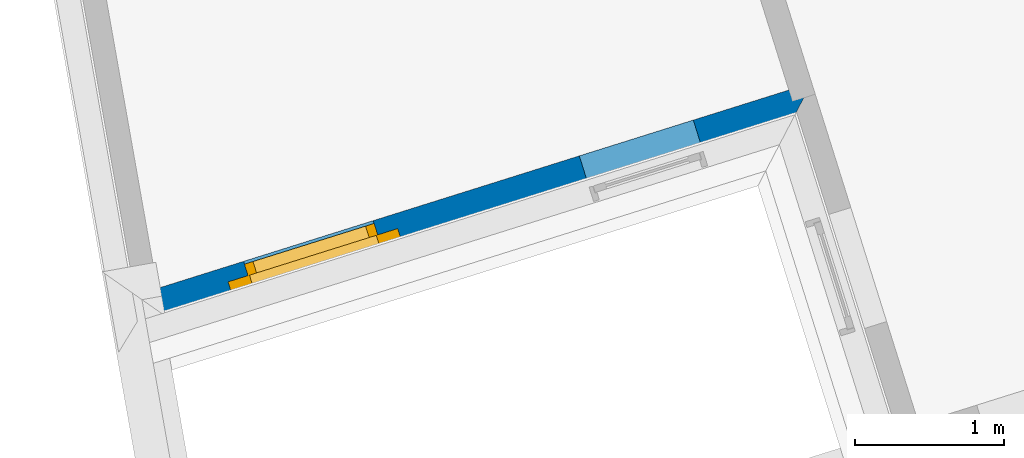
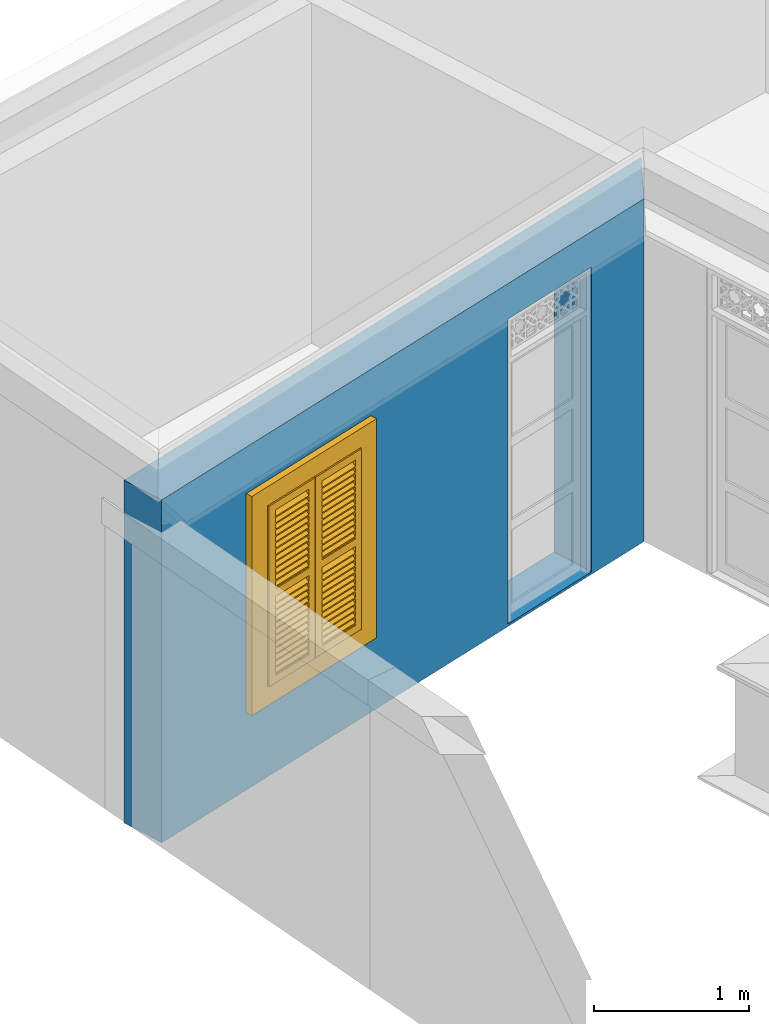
# One storey, part 6 of 13: 1 wall, 1 window, 2 openings.
"""IFC4 building model written with IfcOpenShell, lengths in metres."""

from ifc_helpers import new_model, si_unit, frame, origin, origin_with_axes, place, context, subcontext, project, spatial, polyline, outline, extrude, faceted_brep, source, transform, mapped, material, layer, layer_set, layer_usage, type_object, type_shapes, element, fill, save


model = new_model("IFC4")

# Units and contexts
model_context = context("Model", 3, world=origin_with_axes())
body_context = subcontext(model_context, "Body", "Model", "MODEL_VIEW")
ifc_project = project(units=[si_unit("PLANEANGLEUNIT", "RADIAN"), si_unit("MASSUNIT", "GRAM", prefix="KILO"), si_unit("FORCEUNIT", "NEWTON", prefix="KILO"), si_unit("LENGTHUNIT", "METRE"), si_unit("AREAUNIT", "SQUARE_METRE"), si_unit("VOLUMEUNIT", "CUBIC_METRE")], contexts=[model_context, model_context])

# Site, building, storey
site_placement = place(None, origin_with_axes())
site = spatial("IfcSite", under=ifc_project, at=site_placement, Name="Site plot-0", CompositionType="ELEMENT")
building_placement = place(None, origin_with_axes())
building = spatial("IfcBuilding", under=site, at=building_placement, Name="Building plot-0", CompositionType="ELEMENT")
storey_placement = place(None, frame((0.0, 0.0, 3.6), z_axis=(0.0, 0.0, 1.0), x_axis=(1.0, 0.0, 0.0)))
storey = spatial("IfcBuildingStorey", under=building, at=storey_placement, Name="plot-0 1", CompositionType="ELEMENT", Elevation=3.6)

# Wall, openings, window
ifc_material = material(Name="Masonry")
ifc_layer = layer(ifc_material, 0.33, ventilated=False)
ifc_layer_set = layer_set([ifc_layer], Name="exterior_0.08_0.25")
ifc_layer_usage = layer_usage(ifc_layer_set, "AXIS2", "POSITIVE", -0.25)
wall_type = type_object("IfcWallType", Name="exterior_0.08_0.25", PredefinedType="SOLIDWALL", material=ifc_layer_set)
wall_placement = place(storey_placement, frame((-0.280308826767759, 10.1948542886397, 0.0), z_axis=(0.0, 0.0, 1.0), x_axis=(0.954025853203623, 0.299724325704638, 0.0)))
wall = element("IfcWall", 1, at=wall_placement, inside=storey, type_object=wall_type, material=ifc_layer_usage, Name="exterior", context=body_context, shape_type="SweptSolid", body=[
    extrude(outline(polyline([(-0.25, 0.0800000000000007), (-0.25, -0.25), (4.35151300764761, -0.250000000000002), (4.68151300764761, 0.0799999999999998), (-0.25, 0.0800000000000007)])), origin_with_axes(), (0.0, 0.0, 1.0), 2.7),
])
opening_1_placement = place(wall_placement, frame((0.695378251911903, 0.0, 0.75)))
opening_1 = element("IfcOpeningElement", 2, at=opening_1_placement, cuts=wall, Name="My Opening", ObjectType="Opening", context=body_context, shape_type="SweptSolid", body=[
    extrude(outline(polyline([(0.0, -0.27), (0.91, -0.270000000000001), (0.91, 1.1), (3.33066907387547e-16, 1.1), (0.0, -0.27)])), origin_with_axes(), (0.0, 0.0, 1.0), 1.445),
])
opening_2_placement = place(wall_placement, frame((3.05113475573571, 0.0, 0.02)))
element("IfcOpeningElement", 3, at=opening_2_placement, cuts=wall, Name="My Opening", ObjectType="Opening", context=body_context, shape_type="SweptSolid", body=[
    extrude(outline(polyline([(0.0, -0.27), (0.800000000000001, -0.27), (0.8, 1.1), (8.88178419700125e-16, 1.1), (0.0, -0.27)])), origin_with_axes(), (0.0, 0.0, 1.0), 2.4),
])
window_type = type_object("IfcWindowType", Name="shuttered_shorter", PartitioningType="DOUBLE_PANEL_HORIZONTAL", PredefinedType="NOTDEFINED")
shared_shape = source(origin(), body_context, "Body", "Brep", [
    faceted_brep([(0.393, 0.0, 0.622), (0.074, 0.0, 0.622), (0.074, 0.0, 0.632), (0.393, 0.0, 0.632), (0.074, -0.04, 0.592), (0.393, -0.04, 0.592), (0.393, -0.04, 0.582), (0.074, -0.04, 0.582), (0.517, 0.0, 0.682), (0.836, 0.0, 0.682), (0.836, 0.0, 0.672), (0.517, 0.0, 0.672), (0.517, -0.04, 0.642), (0.836, -0.04, 0.642), (0.836, -0.04, 0.632), (0.517, -0.04, 0.632), (0.517, 0.0, 0.632), (0.836, 0.0, 0.632), (0.836, 0.0, 0.622), (0.517, 0.0, 0.622), (0.517, -0.04, 0.592), (0.836, -0.04, 0.592), (0.836, -0.04, 0.582), (0.517, -0.04, 0.582), (0.517, 0.0, 0.232), (0.836, 0.0, 0.232), (0.836, 0.0, 0.222), (0.517, 0.0, 0.222), (0.517, -0.04, 0.192), (0.836, -0.04, 0.192), (0.836, -0.04, 0.182), (0.517, -0.04, 0.182), (0.517, 0.0, 0.532), (0.836, 0.0, 0.532), (0.836, 0.0, 0.522), (0.517, 0.0, 0.522), (0.517, -0.04, 0.492), (0.836, -0.04, 0.492), (0.836, -0.04, 0.482), (0.517, -0.04, 0.482), (0.517, 0.0, 0.482), (0.836, 0.0, 0.482), (0.836, 0.0, 0.472), (0.517, 0.0, 0.472), (0.517, -0.04, 0.442), (0.836, -0.04, 0.442), (0.836, -0.04, 0.432), (0.517, -0.04, 0.432), (0.517, 0.0, 0.582), (0.836, 0.0, 0.582), (0.836, 0.0, 0.572), (0.517, 0.0, 0.572), (0.517, -0.04, 0.542), (0.836, -0.04, 0.542), (0.836, -0.04, 0.532), (0.517, -0.04, 0.532), (0.517, 0.0, 0.182), (0.836, 0.0, 0.182), (0.836, 0.0, 0.172), (0.517, 0.0, 0.172), (0.517, -0.04, 0.142), (0.836, -0.04, 0.142), (0.836, -0.04, 0.132), (0.517, -0.04, 0.132), (0.517, 0.0, 0.382), (0.836, 0.0, 0.382), (0.836, 0.0, 0.372), (0.517, 0.0, 0.372), (0.517, -0.04, 0.342), (0.836, -0.04, 0.342), (0.836, -0.04, 0.332), (0.517, -0.04, 0.332), (0.517, 0.0, 0.432), (0.836, 0.0, 0.432), (0.836, 0.0, 0.422), (0.517, 0.0, 0.422), (0.517, -0.04, 0.392), (0.836, -0.04, 0.392), (0.836, -0.04, 0.382), (0.517, -0.04, 0.382), (0.517, 0.0, 0.132), (0.836, 0.0, 0.132), (0.836, 0.0, 0.122), (0.517, 0.0, 0.122), (0.517, -0.04, 0.092), (0.836, -0.04, 0.092), (0.836, -0.04, 0.082), (0.517, -0.04, 0.082), (0.517, 0.0, 0.282), (0.836, 0.0, 0.282), (0.836, 0.0, 0.272), (0.517, 0.0, 0.272), (0.517, -0.04, 0.242), (0.836, -0.04, 0.242), (0.836, -0.04, 0.232), (0.517, -0.04, 0.232), (0.517, 0.0, 0.332), (0.836, 0.0, 0.332), (0.836, 0.0, 0.322), (0.517, 0.0, 0.322), (0.517, -0.04, 0.292), (0.836, -0.04, 0.292), (0.836, -0.04, 0.282), (0.517, -0.04, 0.282), (0.517, 0.0, 1.362667), (0.836, 0.0, 1.362667), (0.836, 0.0, 1.352667), (0.517, 0.0, 1.352667), (0.517, -0.04, 1.322667), (0.836, -0.04, 1.322667), (0.836, -0.04, 1.312667), (0.517, -0.04, 1.312667), (0.517, 0.0, 1.312667), (0.836, 0.0, 1.312667), (0.836, 0.0, 1.302667), (0.517, 0.0, 1.302667), (0.517, -0.04, 1.272667), (0.836, -0.04, 1.272667), (0.836, -0.04, 1.262667), (0.517, -0.04, 1.262667), (0.517, 0.0, 0.912667), (0.836, 0.0, 0.912667), (0.836, 0.0, 0.902667), (0.517, 0.0, 0.902667), (0.517, -0.04, 0.872667), (0.836, -0.04, 0.872667), (0.836, -0.04, 0.862667), (0.517, -0.04, 0.862667), (0.517, 0.0, 1.212667), (0.836, 0.0, 1.212667), (0.836, 0.0, 1.202667), (0.517, 0.0, 1.202667), (0.517, -0.04, 1.172667), (0.836, -0.04, 1.172667), (0.836, -0.04, 1.162667), (0.517, -0.04, 1.162667), (0.517, 0.0, 1.162667), (0.836, 0.0, 1.162667), (0.836, 0.0, 1.152667), (0.517, 0.0, 1.152667), (0.517, -0.04, 1.122667), (0.836, -0.04, 1.122667), (0.836, -0.04, 1.112667), (0.517, -0.04, 1.112667), (0.517, 0.0, 1.262667), (0.836, 0.0, 1.262667), (0.836, 0.0, 1.252667), (0.517, 0.0, 1.252667), (0.517, -0.04, 1.222667), (0.836, -0.04, 1.222667), (0.836, -0.04, 1.212667), (0.517, -0.04, 1.212667), (0.517, 0.0, 0.862667), (0.836, 0.0, 0.862667), (0.836, 0.0, 0.852667), (0.517, 0.0, 0.852667), (0.517, -0.04, 0.822667), (0.836, -0.04, 0.822667), (0.836, -0.04, 0.812667), (0.517, -0.04, 0.812667), (0.517, 0.0, 1.062667), (0.836, 0.0, 1.062667), (0.836, 0.0, 1.052667), (0.517, 0.0, 1.052667), (0.517, -0.04, 1.022667), (0.836, -0.04, 1.022667), (0.836, -0.04, 1.012667), (0.517, -0.04, 1.012667), (0.517, 0.0, 1.112667), (0.836, 0.0, 1.112667), (0.836, 0.0, 1.102667), (0.517, 0.0, 1.102667), (0.517, -0.04, 1.072667), (0.836, -0.04, 1.072667), (0.836, -0.04, 1.062667), (0.517, -0.04, 1.062667), (0.517, 0.0, 0.812667), (0.836, 0.0, 0.812667), (0.836, 0.0, 0.802667), (0.517, 0.0, 0.802667), (0.517, -0.04, 0.772667), (0.836, -0.04, 0.772667), (0.836, -0.04, 0.762667), (0.517, -0.04, 0.762667), (0.517, 0.0, 0.962667), (0.836, 0.0, 0.962667), (0.836, 0.0, 0.952667), (0.517, 0.0, 0.952667), (0.517, -0.04, 0.922667), (0.836, -0.04, 0.922667), (0.836, -0.04, 0.912667), (0.517, -0.04, 0.912667), (0.517, 0.0, 1.012667), (0.836, 0.0, 1.012667), (0.836, 0.0, 1.002667), (0.517, 0.0, 1.002667), (0.517, -0.04, 0.972667), (0.836, -0.04, 0.972667), (0.836, -0.04, 0.962667), (0.517, -0.04, 0.962667), (0.074, 0.0, 0.682), (0.393, 0.0, 0.682), (0.393, 0.0, 0.672), (0.074, 0.0, 0.672), (0.074, -0.04, 0.642), (0.393, -0.04, 0.642), (0.393, -0.04, 0.632), (0.074, -0.04, 0.632), (0.074, 0.0, 0.232), (0.393, 0.0, 0.232), (0.393, 0.0, 0.222), (0.074, 0.0, 0.222), (0.074, -0.04, 0.192), (0.393, -0.04, 0.192), (0.393, -0.04, 0.182), (0.074, -0.04, 0.182), (0.074, 0.0, 0.532), (0.393, 0.0, 0.532), (0.393, 0.0, 0.522), (0.074, 0.0, 0.522), (0.074, -0.04, 0.492), (0.393, -0.04, 0.492), (0.393, -0.04, 0.482), (0.074, -0.04, 0.482), (0.074, 0.0, 0.482), (0.393, 0.0, 0.482), (0.393, 0.0, 0.472), (0.074, 0.0, 0.472), (0.074, -0.04, 0.442), (0.393, -0.04, 0.442), (0.393, -0.04, 0.432), (0.074, -0.04, 0.432), (0.074, 0.0, 0.582), (0.393, 0.0, 0.582), (0.393, 0.0, 0.572), (0.074, 0.0, 0.572), (0.074, -0.04, 0.542), (0.393, -0.04, 0.542), (0.393, -0.04, 0.532), (0.074, -0.04, 0.532), (0.074, 0.0, 0.182), (0.393, 0.0, 0.182), (0.393, 0.0, 0.172), (0.074, 0.0, 0.172), (0.074, -0.04, 0.142), (0.393, -0.04, 0.142), (0.393, -0.04, 0.132), (0.074, -0.04, 0.132), (0.074, 0.0, 0.382), (0.393, 0.0, 0.382), (0.393, 0.0, 0.372), (0.074, 0.0, 0.372), (0.074, -0.04, 0.342), (0.393, -0.04, 0.342), (0.393, -0.04, 0.332), (0.074, -0.04, 0.332), (0.074, 0.0, 0.432), (0.393, 0.0, 0.432), (0.393, 0.0, 0.422), (0.074, 0.0, 0.422), (0.074, -0.04, 0.392), (0.393, -0.04, 0.392), (0.393, -0.04, 0.382), (0.074, -0.04, 0.382), (0.074, 0.0, 0.132), (0.393, 0.0, 0.132), (0.393, 0.0, 0.122), (0.074, 0.0, 0.122), (0.074, -0.04, 0.092), (0.393, -0.04, 0.092), (0.393, -0.04, 0.082), (0.074, -0.04, 0.082), (0.074, 0.0, 0.282), (0.393, 0.0, 0.282), (0.393, 0.0, 0.272), (0.074, 0.0, 0.272), (0.074, -0.04, 0.242), (0.393, -0.04, 0.242), (0.393, -0.04, 0.232), (0.074, -0.04, 0.232), (0.074, 0.0, 0.332), (0.393, 0.0, 0.332), (0.393, 0.0, 0.322), (0.074, 0.0, 0.322), (0.074, -0.04, 0.292), (0.393, -0.04, 0.292), (0.393, -0.04, 0.282), (0.074, -0.04, 0.282), (0.074, 0.0, 1.362667), (0.393, 0.0, 1.362667), (0.393, 0.0, 1.352667), (0.074, 0.0, 1.352667), (0.074, -0.04, 1.322667), (0.393, -0.04, 1.322667), (0.393, -0.04, 1.312667), (0.074, -0.04, 1.312667), (0.074, 0.0, 1.312667), (0.393, 0.0, 1.312667), (0.393, 0.0, 1.302667), (0.074, 0.0, 1.302667), (0.074, -0.04, 1.272667), (0.393, -0.04, 1.272667), (0.393, -0.04, 1.262667), (0.074, -0.04, 1.262667), (0.074, 0.0, 0.912667), (0.393, 0.0, 0.912667), (0.393, 0.0, 0.902667), (0.074, 0.0, 0.902667), (0.074, -0.04, 0.872667), (0.393, -0.04, 0.872667), (0.393, -0.04, 0.862667), (0.074, -0.04, 0.862667), (0.074, 0.0, 1.212667), (0.393, 0.0, 1.212667), (0.393, 0.0, 1.202667), (0.074, 0.0, 1.202667), (0.074, -0.04, 1.172667), (0.393, -0.04, 1.172667), (0.393, -0.04, 1.162667), (0.074, -0.04, 1.162667), (0.074, 0.0, 1.162667), (0.393, 0.0, 1.162667), (0.393, 0.0, 1.152667), (0.074, 0.0, 1.152667), (0.074, -0.04, 1.122667), (0.393, -0.04, 1.122667), (0.393, -0.04, 1.112667), (0.074, -0.04, 1.112667), (0.074, 0.0, 1.262667), (0.393, 0.0, 1.262667), (0.393, 0.0, 1.252667), (0.074, 0.0, 1.252667), (0.074, -0.04, 1.222667), (0.393, -0.04, 1.222667), (0.393, -0.04, 1.212667), (0.074, -0.04, 1.212667), (0.074, 0.0, 0.862667), (0.393, 0.0, 0.862667), (0.393, 0.0, 0.852667), (0.074, 0.0, 0.852667), (0.074, -0.04, 0.822667), (0.393, -0.04, 0.822667), (0.393, -0.04, 0.812667), (0.074, -0.04, 0.812667), (0.074, 0.0, 1.062667), (0.393, 0.0, 1.062667), (0.393, 0.0, 1.052667), (0.074, 0.0, 1.052667), (0.074, -0.04, 1.022667), (0.393, -0.04, 1.022667), (0.393, -0.04, 1.012667), (0.074, -0.04, 1.012667), (0.074, 0.0, 1.112667), (0.393, 0.0, 1.112667), (0.393, 0.0, 1.102667), (0.074, 0.0, 1.102667), (0.074, -0.04, 1.072667), (0.393, -0.04, 1.072667), (0.393, -0.04, 1.062667), (0.074, -0.04, 1.062667), (0.074, 0.0, 0.812667), (0.393, 0.0, 0.812667), (0.393, 0.0, 0.802667), (0.074, 0.0, 0.802667), (0.074, -0.04, 0.772667), (0.393, -0.04, 0.772667), (0.393, -0.04, 0.762667), (0.074, -0.04, 0.762667), (0.074, 0.0, 0.962667), (0.393, 0.0, 0.962667), (0.393, 0.0, 0.952667), (0.074, 0.0, 0.952667), (0.074, -0.04, 0.922667), (0.393, -0.04, 0.922667), (0.393, -0.04, 0.912667), (0.074, -0.04, 0.912667), (0.074, 0.0, 1.012667), (0.393, 0.0, 1.012667), (0.393, 0.0, 1.002667), (0.074, 0.0, 1.002667), (0.074, -0.04, 0.972667), (0.393, -0.04, 0.972667), (0.393, -0.04, 0.962667), (0.074, -0.04, 0.962667), (0.517, -0.04, 0.072), (0.457, -0.04, 0.012), (0.896, -0.04, 0.012), (0.836, -0.04, 0.072), (0.457, -0.04, 0.692667), (0.517, -0.04, 0.692667), (0.457, 0.0, 0.012), (0.896, 0.0, 0.012), (0.836, -0.04, 0.692667), (0.896, -0.04, 0.692667), (0.836, 0.0, 0.072), (0.517, 0.0, 0.072), (0.457, 0.0, 0.692667), (0.517, 0.0, 0.692667), (0.517, -0.04, 0.752666), (0.457, -0.04, 0.752666), (0.896, 0.0, 0.692667), (0.836, 0.0, 0.692667), (0.836, -0.04, 0.752666), (0.896, -0.04, 0.752666), (0.457, 0.0, 0.752666), (0.457, -0.04, 1.433333), (0.517, -0.04, 1.373333), (0.896, 0.0, 0.752666), (0.836, -0.04, 1.373333), (0.896, -0.04, 1.433333), (0.457, 0.0, 1.433333), (0.517, 0.0, 0.752666), (0.836, 0.0, 0.752666), (0.517, 0.0, 1.373333), (0.896, 0.0, 1.433333), (0.836, 0.0, 1.373333), (0.074, -0.04, 0.072), (0.014, -0.04, 0.012), (0.453, -0.04, 0.012), (0.393, -0.04, 0.072), (0.014, -0.04, 0.692667), (0.074, -0.04, 0.692667), (0.014, 0.0, 0.012), (0.453, 0.0, 0.012), (0.393, -0.04, 0.692667), (0.453, -0.04, 0.692667), (0.393, 0.0, 0.072), (0.074, 0.0, 0.072), (0.014, 0.0, 0.692667), (0.074, 0.0, 0.692667), (0.074, -0.04, 0.752666), (0.014, -0.04, 0.752666), (0.453, 0.0, 0.692667), (0.393, 0.0, 0.692667), (0.393, -0.04, 0.752666), (0.453, -0.04, 0.752666), (0.014, 0.0, 0.752666), (0.014, -0.04, 1.433333), (0.074, -0.04, 1.373333), (0.453, 0.0, 0.752666), (0.393, -0.04, 1.373333), (0.453, -0.04, 1.433333), (0.014, 0.0, 1.433333), (0.074, 0.0, 0.752666), (0.393, 0.0, 0.752666), (0.074, 0.0, 1.373333), (0.453, 0.0, 1.433333), (0.393, 0.0, 1.373333), (0.0, 0.33, 1.445), (0.91, 0.33, 1.445), (0.85, 0.33, 1.385), (0.06, 0.33, 1.385), (0.91, 0.25, 1.445), (0.0, 0.25, 1.445), (0.91, 0.25, 1.445), (0.85, 0.33, 0.06), (0.91, 0.33, 0.0), (0.85, 0.25, 1.385), (0.06, 0.25, 1.385), (0.0, 0.33, 0.0), (0.06, 0.33, 0.06), (0.0, 0.25, 0.0), (0.91, 0.25, 0.0), (0.85, 0.25, 0.06), (0.06, 0.25, 0.06), (1.05, 0.25, 1.585), (-0.14, 0.25, 1.585), (-0.14, -0.03, 1.585), (1.05, -0.03, 1.585), (0.9, -0.03, 1.435), (0.01, -0.03, 1.435), (0.01, 0.25, 1.435), (0.9, 0.25, 1.435), (0.9, 0.25, 0.01), (0.9, -0.03, 0.01), (1.05, -0.03, -0.14), (1.05, 0.25, -0.14), (0.01, -0.03, 0.01), (0.01, 0.25, 0.01), (-0.14, -0.03, -0.14), (-0.14, 0.25, -0.14)], [[[0, 1, 2, 3]], [[4, 5, 3, 2]], [[5, 6, 0, 3]], [[1, 0, 6, 7]], [[2, 1, 7, 4]], [[5, 4, 7, 6]], [[8, 9, 10, 11]], [[12, 13, 9, 8]], [[13, 14, 10, 9]], [[14, 15, 11, 10]], [[15, 12, 8, 11]], [[13, 12, 15, 14]], [[16, 17, 18, 19]], [[20, 21, 17, 16]], [[21, 22, 18, 17]], [[22, 23, 19, 18]], [[23, 20, 16, 19]], [[21, 20, 23, 22]], [[24, 25, 26, 27]], [[28, 29, 25, 24]], [[29, 30, 26, 25]], [[30, 31, 27, 26]], [[31, 28, 24, 27]], [[29, 28, 31, 30]], [[32, 33, 34, 35]], [[36, 37, 33, 32]], [[37, 38, 34, 33]], [[38, 39, 35, 34]], [[39, 36, 32, 35]], [[37, 36, 39, 38]], [[40, 41, 42, 43]], [[44, 45, 41, 40]], [[45, 46, 42, 41]], [[46, 47, 43, 42]], [[47, 44, 40, 43]], [[45, 44, 47, 46]], [[48, 49, 50, 51]], [[52, 53, 49, 48]], [[53, 54, 50, 49]], [[54, 55, 51, 50]], [[55, 52, 48, 51]], [[53, 52, 55, 54]], [[56, 57, 58, 59]], [[60, 61, 57, 56]], [[61, 62, 58, 57]], [[62, 63, 59, 58]], [[63, 60, 56, 59]], [[61, 60, 63, 62]], [[64, 65, 66, 67]], [[68, 69, 65, 64]], [[69, 70, 66, 65]], [[70, 71, 67, 66]], [[71, 68, 64, 67]], [[69, 68, 71, 70]], [[72, 73, 74, 75]], [[76, 77, 73, 72]], [[77, 78, 74, 73]], [[78, 79, 75, 74]], [[79, 76, 72, 75]], [[77, 76, 79, 78]], [[80, 81, 82, 83]], [[84, 85, 81, 80]], [[85, 86, 82, 81]], [[86, 87, 83, 82]], [[87, 84, 80, 83]], [[85, 84, 87, 86]], [[88, 89, 90, 91]], [[92, 93, 89, 88]], [[93, 94, 90, 89]], [[94, 95, 91, 90]], [[95, 92, 88, 91]], [[93, 92, 95, 94]], [[96, 97, 98, 99]], [[100, 101, 97, 96]], [[101, 102, 98, 97]], [[102, 103, 99, 98]], [[103, 100, 96, 99]], [[101, 100, 103, 102]], [[104, 105, 106, 107]], [[108, 109, 105, 104]], [[109, 110, 106, 105]], [[110, 111, 107, 106]], [[111, 108, 104, 107]], [[109, 108, 111, 110]], [[112, 113, 114, 115]], [[116, 117, 113, 112]], [[117, 118, 114, 113]], [[118, 119, 115, 114]], [[119, 116, 112, 115]], [[117, 116, 119, 118]], [[120, 121, 122, 123]], [[124, 125, 121, 120]], [[125, 126, 122, 121]], [[126, 127, 123, 122]], [[127, 124, 120, 123]], [[125, 124, 127, 126]], [[128, 129, 130, 131]], [[132, 133, 129, 128]], [[133, 134, 130, 129]], [[134, 135, 131, 130]], [[135, 132, 128, 131]], [[133, 132, 135, 134]], [[136, 137, 138, 139]], [[140, 141, 137, 136]], [[141, 142, 138, 137]], [[142, 143, 139, 138]], [[139, 143, 140, 136]], [[141, 140, 143, 142]], [[144, 145, 146, 147]], [[148, 149, 145, 144]], [[149, 150, 146, 145]], [[150, 151, 147, 146]], [[151, 148, 144, 147]], [[149, 148, 151, 150]], [[152, 153, 154, 155]], [[156, 157, 153, 152]], [[157, 158, 154, 153]], [[158, 159, 155, 154]], [[159, 156, 152, 155]], [[157, 156, 159, 158]], [[160, 161, 162, 163]], [[164, 165, 161, 160]], [[165, 166, 162, 161]], [[166, 167, 163, 162]], [[167, 164, 160, 163]], [[165, 164, 167, 166]], [[168, 169, 170, 171]], [[172, 173, 169, 168]], [[173, 174, 170, 169]], [[174, 175, 171, 170]], [[175, 172, 168, 171]], [[173, 172, 175, 174]], [[176, 177, 178, 179]], [[180, 181, 177, 176]], [[181, 182, 178, 177]], [[182, 183, 179, 178]], [[183, 180, 176, 179]], [[181, 180, 183, 182]], [[184, 185, 186, 187]], [[188, 189, 185, 184]], [[189, 190, 186, 185]], [[190, 191, 187, 186]], [[191, 188, 184, 187]], [[189, 188, 191, 190]], [[192, 193, 194, 195]], [[196, 197, 193, 192]], [[197, 198, 194, 193]], [[198, 199, 195, 194]], [[199, 196, 192, 195]], [[197, 196, 199, 198]], [[200, 201, 202, 203]], [[204, 205, 201, 200]], [[205, 206, 202, 201]], [[206, 207, 203, 202]], [[207, 204, 200, 203]], [[205, 204, 207, 206]], [[208, 209, 210, 211]], [[212, 213, 209, 208]], [[213, 214, 210, 209]], [[214, 215, 211, 210]], [[215, 212, 208, 211]], [[213, 212, 215, 214]], [[216, 217, 218, 219]], [[220, 221, 217, 216]], [[221, 222, 218, 217]], [[222, 223, 219, 218]], [[223, 220, 216, 219]], [[221, 220, 223, 222]], [[224, 225, 226, 227]], [[228, 229, 225, 224]], [[229, 230, 226, 225]], [[230, 231, 227, 226]], [[231, 228, 224, 227]], [[229, 228, 231, 230]], [[232, 233, 234, 235]], [[236, 237, 233, 232]], [[237, 238, 234, 233]], [[238, 239, 235, 234]], [[239, 236, 232, 235]], [[237, 236, 239, 238]], [[240, 241, 242, 243]], [[244, 245, 241, 240]], [[245, 246, 242, 241]], [[246, 247, 243, 242]], [[247, 244, 240, 243]], [[245, 244, 247, 246]], [[248, 249, 250, 251]], [[252, 253, 249, 248]], [[253, 254, 250, 249]], [[254, 255, 251, 250]], [[255, 252, 248, 251]], [[253, 252, 255, 254]], [[256, 257, 258, 259]], [[260, 261, 257, 256]], [[261, 262, 258, 257]], [[262, 263, 259, 258]], [[263, 260, 256, 259]], [[261, 260, 263, 262]], [[264, 265, 266, 267]], [[268, 269, 265, 264]], [[269, 270, 266, 265]], [[270, 271, 267, 266]], [[271, 268, 264, 267]], [[269, 268, 271, 270]], [[272, 273, 274, 275]], [[276, 277, 273, 272]], [[277, 278, 274, 273]], [[278, 279, 275, 274]], [[279, 276, 272, 275]], [[277, 276, 279, 278]], [[280, 281, 282, 283]], [[284, 285, 281, 280]], [[285, 286, 282, 281]], [[286, 287, 283, 282]], [[287, 284, 280, 283]], [[285, 284, 287, 286]], [[288, 289, 290, 291]], [[292, 293, 289, 288]], [[293, 294, 290, 289]], [[294, 295, 291, 290]], [[295, 292, 288, 291]], [[293, 292, 295, 294]], [[296, 297, 298, 299]], [[300, 301, 297, 296]], [[301, 302, 298, 297]], [[302, 303, 299, 298]], [[303, 300, 296, 299]], [[301, 300, 303, 302]], [[304, 305, 306, 307]], [[308, 309, 305, 304]], [[309, 310, 306, 305]], [[310, 311, 307, 306]], [[311, 308, 304, 307]], [[309, 308, 311, 310]], [[312, 313, 314, 315]], [[316, 317, 313, 312]], [[317, 318, 314, 313]], [[318, 319, 315, 314]], [[319, 316, 312, 315]], [[317, 316, 319, 318]], [[320, 321, 322, 323]], [[324, 325, 321, 320]], [[325, 326, 322, 321]], [[326, 327, 323, 322]], [[327, 324, 320, 323]], [[325, 324, 327, 326]], [[328, 329, 330, 331]], [[332, 333, 329, 328]], [[333, 334, 330, 329]], [[334, 335, 331, 330]], [[335, 332, 328, 331]], [[333, 332, 335, 334]], [[336, 337, 338, 339]], [[340, 341, 337, 336]], [[341, 342, 338, 337]], [[342, 343, 339, 338]], [[343, 340, 336, 339]], [[341, 340, 343, 342]], [[344, 345, 346, 347]], [[348, 349, 345, 344]], [[349, 350, 346, 345]], [[350, 351, 347, 346]], [[351, 348, 344, 347]], [[349, 348, 351, 350]], [[352, 353, 354, 355]], [[356, 357, 353, 352]], [[357, 358, 354, 353]], [[358, 359, 355, 354]], [[359, 356, 352, 355]], [[357, 356, 359, 358]], [[360, 361, 362, 363]], [[364, 365, 361, 360]], [[365, 366, 362, 361]], [[366, 367, 363, 362]], [[367, 364, 360, 363]], [[365, 364, 367, 366]], [[368, 369, 370, 371]], [[372, 373, 369, 368]], [[373, 374, 370, 369]], [[374, 375, 371, 370]], [[375, 372, 368, 371]], [[373, 372, 375, 374]], [[376, 377, 378, 379]], [[380, 381, 377, 376]], [[381, 382, 378, 377]], [[382, 383, 379, 378]], [[383, 380, 376, 379]], [[381, 380, 383, 382]], [[384, 385, 386, 387]], [[388, 385, 384, 389]], [[390, 391, 386, 385]], [[392, 387, 386, 393]], [[384, 387, 394, 395]], [[390, 385, 388, 396]], [[389, 384, 395, 397]], [[389, 398, 399, 388]], [[390, 395, 394, 391]], [[400, 393, 386, 391]], [[387, 392, 401, 394]], [[402, 392, 393, 403]], [[396, 388, 399, 404]], [[390, 396, 397, 395]], [[392, 389, 397, 401]], [[398, 389, 392, 402]], [[405, 399, 398, 406]], [[394, 401, 400, 391]], [[407, 403, 393, 400]], [[408, 402, 403, 409]], [[404, 399, 405, 410]], [[411, 397, 396, 404]], [[397, 411, 412, 401]], [[398, 402, 412, 411]], [[406, 398, 411, 413]], [[405, 406, 408, 409]], [[401, 412, 407, 400]], [[414, 409, 403, 407]], [[402, 408, 415, 412]], [[405, 409, 414, 410]], [[404, 410, 413, 411]], [[408, 406, 413, 415]], [[412, 415, 414, 407]], [[413, 410, 414, 415]], [[416, 417, 418, 419]], [[420, 417, 416, 421]], [[422, 423, 418, 417]], [[424, 419, 418, 425]], [[416, 419, 426, 427]], [[422, 417, 420, 428]], [[421, 416, 427, 429]], [[421, 430, 431, 420]], [[422, 427, 426, 423]], [[432, 425, 418, 423]], [[419, 424, 433, 426]], [[434, 424, 425, 435]], [[428, 420, 431, 436]], [[422, 428, 429, 427]], [[424, 421, 429, 433]], [[430, 421, 424, 434]], [[437, 431, 430, 438]], [[426, 433, 432, 423]], [[439, 435, 425, 432]], [[440, 434, 435, 441]], [[436, 431, 437, 442]], [[443, 429, 428, 436]], [[429, 443, 444, 433]], [[430, 434, 444, 443]], [[438, 430, 443, 445]], [[437, 438, 440, 441]], [[433, 444, 439, 432]], [[446, 441, 435, 439]], [[434, 440, 447, 444]], [[437, 441, 446, 442]], [[436, 442, 445, 443]], [[440, 438, 445, 447]], [[444, 447, 446, 439]], [[445, 442, 446, 447]], [[448, 449, 450, 451]], [[452, 449, 448]], [[448, 453, 454]], [[448, 454, 452]], [[455, 450, 449, 456]], [[451, 450, 457, 458]], [[459, 448, 451, 460]], [[448, 459, 461, 453]], [[454, 453, 458, 457]], [[462, 452, 454]], [[454, 457, 463]], [[454, 463, 462]], [[456, 449, 452, 462]], [[450, 455, 463, 457]], [[456, 459, 460, 455]], [[460, 451, 458, 464]], [[459, 456, 462, 461]], [[464, 458, 453, 461]], [[461, 462, 463, 464]], [[455, 460, 464, 463]], [[465, 466, 467, 468]], [[469, 470, 471, 472]], [[473, 474, 469, 472]], [[465, 468, 475, 476]], [[470, 477, 478, 471]], [[474, 473, 478, 477]], [[474, 477, 479, 475]], [[470, 467, 479, 477]], [[470, 469, 468, 467]], [[474, 475, 468, 469]], [[471, 478, 480, 466]], [[473, 472, 465, 476]], [[473, 476, 480, 478]], [[466, 465, 472, 471]], [[480, 476, 475, 479]], [[480, 479, 467, 466]]]),
])
type_shapes(window_type, [shared_shape])
window_placement = place(storey_placement, frame((0.46402557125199, 10.1456890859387, 0.75), z_axis=(0.0, 0.0, 1.0), x_axis=(0.868163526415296, 0.272749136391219, 0.0)))
window = element("IfcWindow", 4, at=window_placement, inside=storey, type_object=window_type, Name="bedroom sahn window", OverallHeight=1.445, OverallWidth=0.91, context=body_context, shape_type="MappedRepresentation", body=[
    mapped(shared_shape, transform((0.0, 0.0, 0.0), scale=1.0)),
])
fill(opening_1, window)

save(model, "model.ifc")
